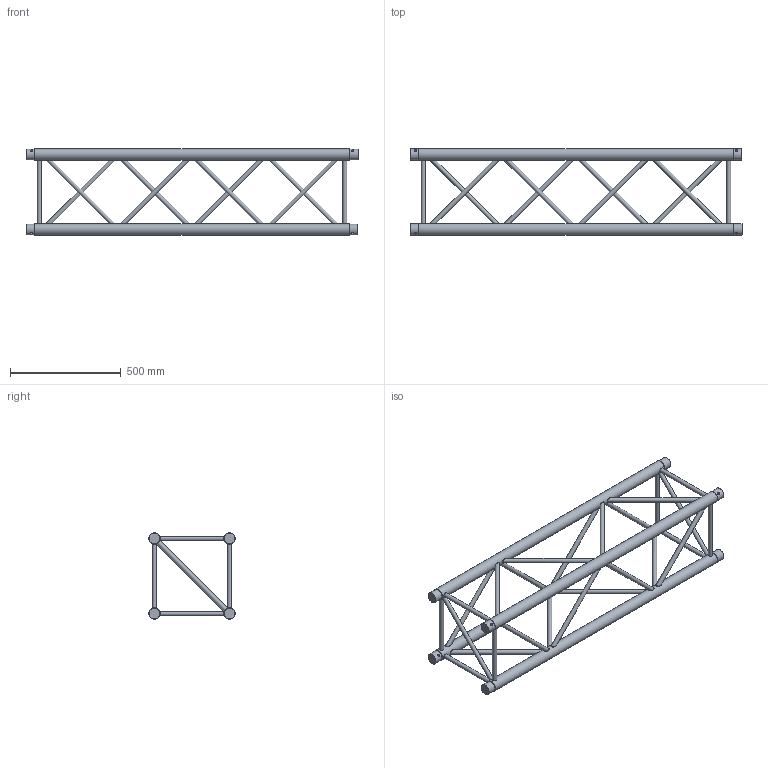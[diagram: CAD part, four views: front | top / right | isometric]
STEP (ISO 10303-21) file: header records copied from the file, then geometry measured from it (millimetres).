
FILE_DESCRIPTION(/* description */ (''),/* implementation_level */ '2;1');
FILE_NAME(/* name */ 'M:\Symbolen\STP\40-er truss\111080195.stp',/* time_stamp */ '2015-02-26T15:28:51+01:00',/* author */ ('Stephan'),/* organization */ (''),/* preprocessor_version */ 'ST-DEVELOPER v15.6',/* originating_system */ 'Autodesk Inventor 2015',/* authorisation */ '');
FILE_SCHEMA (('AUTOMOTIVE_DESIGN { 1 0 10303 214 3 1 1 }'));
Length unit declared in the file: millimetre
Products named in the file (1): 160023954
Bounding box: 1500 x 389.98 x 389.98 mm (x, y, z)
Volume: 15228227.5 mm3; surface area: 1618552.8 mm2
Topology: 30 solids, 30 shells, 202 faces, 374 edges, 232 vertices
Faces by surface type: plane 116, cylinder 78, cone 8
Full cylindrical faces by diameter (mm): 10 x8, 20 x26, 49.5 x8, 51 x4
Entity records: 5529 total; most frequent: CARTESIAN_POINT 1587, DIRECTION 686, ORIENTED_EDGE 648, EDGE_CURVE 308, AXIS2_PLACEMENT_3D 303, EDGE_LOOP 296, VERTEX_POINT 228, STYLED_ITEM 173
